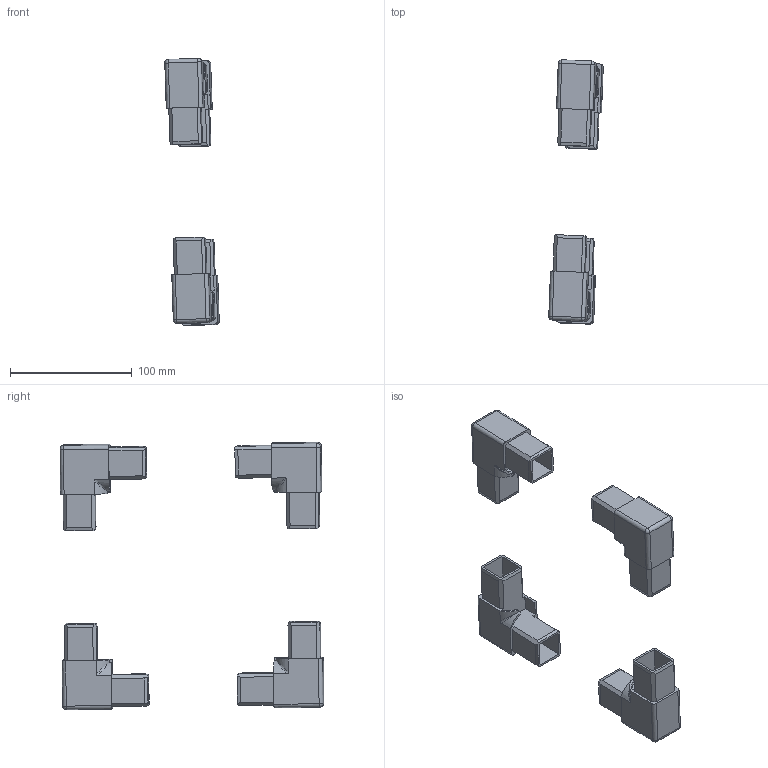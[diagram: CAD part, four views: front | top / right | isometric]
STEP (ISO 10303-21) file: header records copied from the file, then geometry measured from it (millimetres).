
FILE_DESCRIPTION (( 'STEP AP214' ), '1' );
FILE_NAME ('L15838 ENS.step', '2024-12-03T16:22:01', ( '' ), ( '' ), 'SwSTEP 2.0', 'SolidWorks 2023', '' );
FILE_SCHEMA (( 'AUTOMOTIVE_DESIGN' ));
Length unit declared in the file: millimetre
Products named in the file (2): L15838 ENS; L15838
Assembly tree (4 placements, depth 2):
  L15838 ENS
    L15838  x4
Bounding box: 44.64 x 216.32 x 219.07 mm (x, y, z)
Volume: 121731.7 mm3; surface area: 105675.2 mm2
Topology: 4 solids, 16 shells, 356 faces, 912 edges, 588 vertices
Faces by surface type: plane 220, cylinder 116, torus 8, sphere 8, bspline 4
Full cylindrical faces by diameter (mm): 7 x16, 10 x16
Entity records: 3099 total; most frequent: CARTESIAN_POINT 959, ORIENTED_EDGE 426, DIRECTION 418, EDGE_CURVE 213, LINE 162, VECTOR 162, VERTEX_POINT 142, AXIS2_PLACEMENT_3D 128
